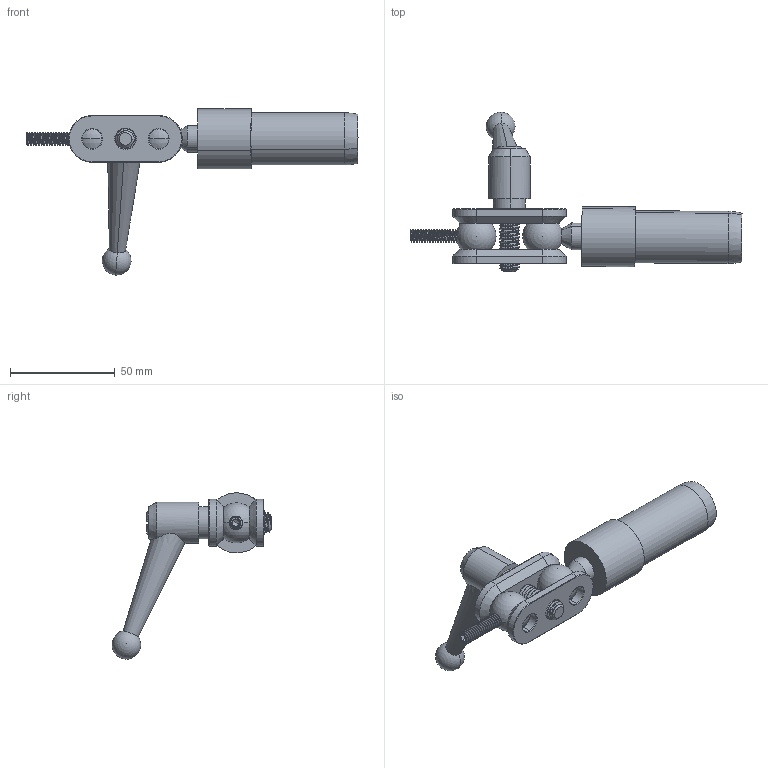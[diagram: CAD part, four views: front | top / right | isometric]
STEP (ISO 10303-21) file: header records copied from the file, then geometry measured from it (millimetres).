
FILE_DESCRIPTION (( 'STEP AP203' ), '1' );
FILE_NAME ('FDPCK-MC1-SWIVEL-KIT.step', '2019-09-11T18:43:35', ( 'ydmin' ), ( '' ), 'SwSTEP 2.0', 'SolidWorks 2017', '' );
FILE_SCHEMA (( 'CONFIG_CONTROL_DESIGN' ));
Length unit declared in the file: inch
Products named in the file (1): FDPCK-MC1-SWIVEL-KIT
Bounding box: 158.14 x 76.2 x 79.18 mm (x, y, z)
Volume: 61099.4 mm3; surface area: 29422.6 mm2
Topology: 12 solids, 12 shells, 466 faces, 1231 edges, 778 vertices
Faces by surface type: cylinder 242, cone 87, bspline 70, plane 59, sphere 6, torus 2
Entity records: 76824 total; most frequent: CARTESIAN_POINT 67235, ORIENTED_EDGE 2408, DIRECTION 1547, EDGE_CURVE 1204, VERTEX_POINT 769, AXIS2_PLACEMENT_3D 580, EDGE_LOOP 489, FACE_OUTER_BOUND 466
